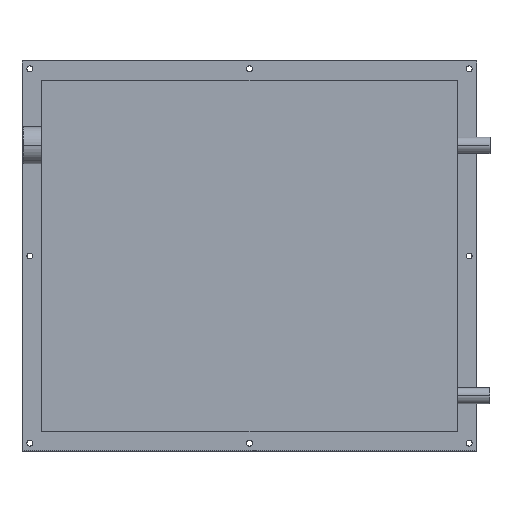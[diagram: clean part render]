
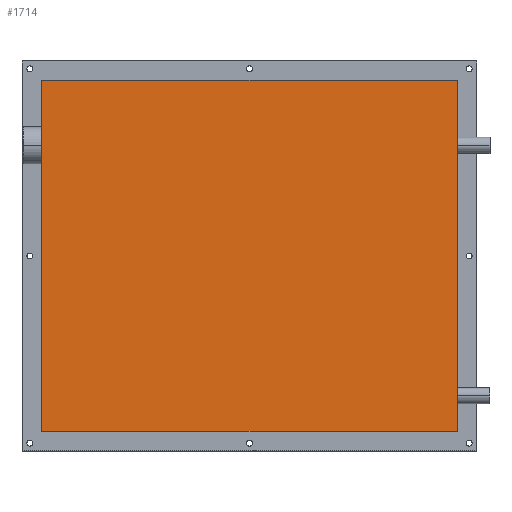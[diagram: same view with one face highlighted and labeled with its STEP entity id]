
A CAD part, top view. The second image highlights one B-rep face of the part: STEP entity #1714.
In plain terms, the highlighted planar face has unit normal (0, 0, 1).
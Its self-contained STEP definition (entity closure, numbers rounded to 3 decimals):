
#47 = CARTESIAN_POINT ( 'NONE',  ( 670., 30., 200. ) ) ;
#171 = AXIS2_PLACEMENT_3D ( 'NONE', #739, #351, #1632 ) ;
#203 = VECTOR ( 'NONE', #1200, 1000. ) ;
#251 = ORIENTED_EDGE ( 'NONE', *, *, #2191, .T. ) ;
#259 = LINE ( 'NONE', #368, #1550 ) ;
#337 = ORIENTED_EDGE ( 'NONE', *, *, #1227, .T. ) ;
#351 = DIRECTION ( 'NONE',  ( 0., 0., -1. ) ) ;
#357 = EDGE_CURVE ( 'NONE', #1206, #2119, #417, .T. ) ;
#368 = CARTESIAN_POINT ( 'NONE',  ( 670., 30., 200. ) ) ;
#389 = VECTOR ( 'NONE', #441, 1000. ) ;
#417 = LINE ( 'NONE', #832, #389 ) ;
#441 = DIRECTION ( 'NONE',  ( 0., 1., 0. ) ) ;
#568 = ORIENTED_EDGE ( 'NONE', *, *, #1614, .T. ) ;
#721 = ORIENTED_EDGE ( 'NONE', *, *, #357, .T. ) ;
#739 = CARTESIAN_POINT ( 'NONE',  ( 0., 0., 200. ) ) ;
#832 = CARTESIAN_POINT ( 'NONE',  ( 670., 30., 200. ) ) ;
#869 = CARTESIAN_POINT ( 'NONE',  ( 30., 30., 200. ) ) ;
#915 = DIRECTION ( 'NONE',  ( 1., 0., 0. ) ) ;
#986 = CARTESIAN_POINT ( 'NONE',  ( 670., 570., 200. ) ) ;
#1004 = CARTESIAN_POINT ( 'NONE',  ( 670., 570., 200. ) ) ;
#1077 = CARTESIAN_POINT ( 'NONE',  ( 30., 570., 200. ) ) ;
#1081 = PLANE ( 'NONE',  #171 ) ;
#1191 = DIRECTION ( 'NONE',  ( -1., 0., 0. ) ) ;
#1200 = DIRECTION ( 'NONE',  ( 0., -1., 0. ) ) ;
#1206 = VERTEX_POINT ( 'NONE', #47 ) ;
#1227 = EDGE_CURVE ( 'NONE', #2119, #1738, #2170, .T. ) ;
#1550 = VECTOR ( 'NONE', #915, 1000. ) ;
#1598 = VERTEX_POINT ( 'NONE', #869 ) ;
#1614 = EDGE_CURVE ( 'NONE', #1598, #1206, #259, .T. ) ;
#1632 = DIRECTION ( 'NONE',  ( -1., 0., 0. ) ) ;
#1714 = ADVANCED_FACE ( 'NONE', ( #2110 ), #1081, .F. ) ;
#1738 = VERTEX_POINT ( 'NONE', #1077 ) ;
#1780 = EDGE_LOOP ( 'NONE', ( #721, #337, #251, #568 ) ) ;
#1901 = CARTESIAN_POINT ( 'NONE',  ( 30., 30., 200. ) ) ;
#2110 = FACE_OUTER_BOUND ( 'NONE', #1780, .T. ) ;
#2119 = VERTEX_POINT ( 'NONE', #1004 ) ;
#2170 = LINE ( 'NONE', #986, #2259 ) ;
#2191 = EDGE_CURVE ( 'NONE', #1738, #1598, #2231, .T. ) ;
#2231 = LINE ( 'NONE', #1901, #203 ) ;
#2259 = VECTOR ( 'NONE', #1191, 1000. ) ;
